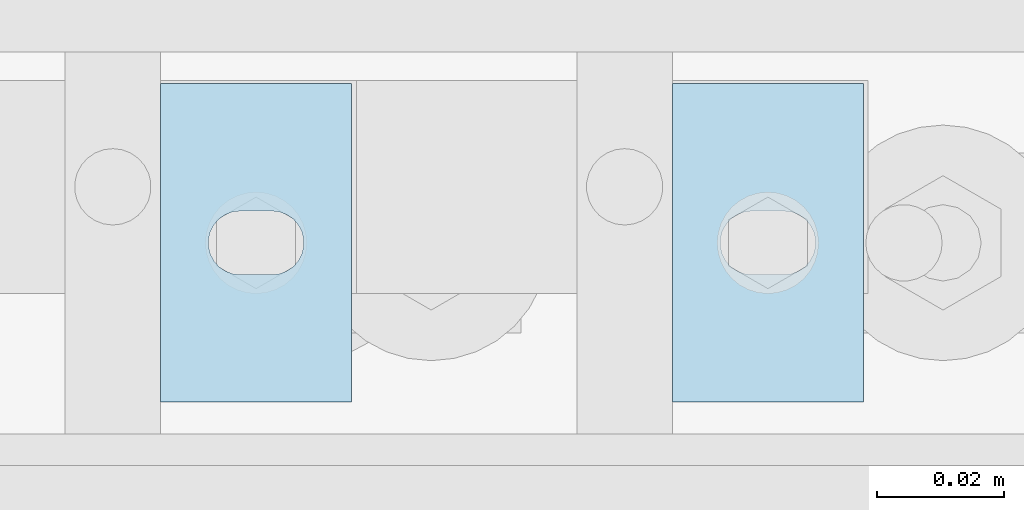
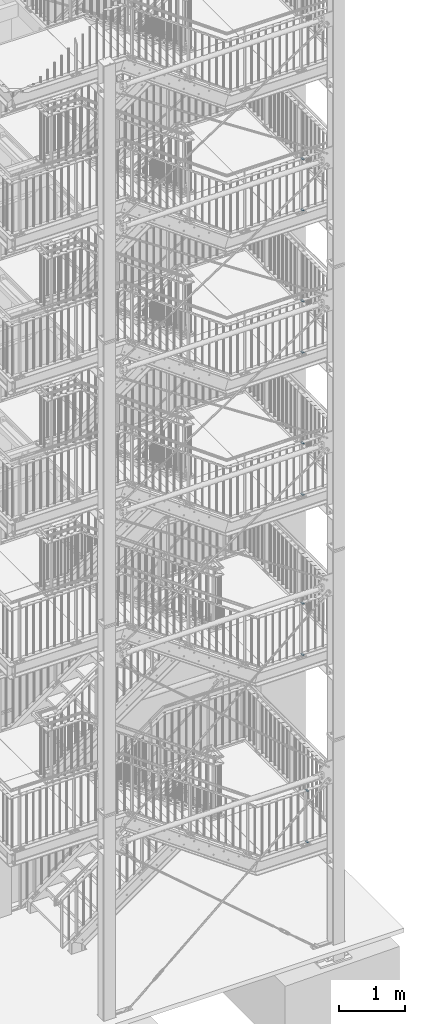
# One storey, part 232 of 831: 10 plates, 10 openings.
"""IFC2X3 building model written with IfcOpenShell, lengths in millimetres."""

from ifc_helpers import new_model, entity, si_unit, converted_unit, point, frame, frame_2d, origin, origin_with_axes, place, context, project, spatial, polyline, circle_curve, line_curve, trimmed, segment, composite_curve, outline, extrude, material, layer, layer_set, element, save


model = new_model("IFC2X3")

# Units and contexts
model_context = context("Model", 3, precision=1e-09, world=origin_with_axes())
ifc_project = project(units=[si_unit("LENGTHUNIT", "METRE", prefix="MILLI"), si_unit("AREAUNIT", "SQUARE_METRE"), si_unit("VOLUMEUNIT", "CUBIC_METRE"), converted_unit("PLANEANGLEUNIT", "DEGREE", entity("IfcPlaneAngleMeasure", 0.01745329), si_unit("PLANEANGLEUNIT", "RADIAN"), dimensions=[0, 0, 0, 0, 0, 0, 0])], contexts=[model_context])

# Site, building, storey
site_placement = place(None, origin_with_axes())
site = spatial("IfcSite", under=ifc_project, at=site_placement, Name="Site", CompositionType="ELEMENT")
building_placement = place(site_placement, origin_with_axes())
building = spatial("IfcBuilding", under=site, at=building_placement, Name="Struktur 1", CompositionType="ELEMENT")
storey_placement = place(building_placement, origin_with_axes())
storey = spatial("IfcBuildingStorey", under=building, at=storey_placement, Name="Default Storey", CompositionType="ELEMENT", Elevation=0.0)

# Plate, opening
ifc_material = material(Name="S235JR")
ifc_layer = layer(ifc_material, 6.0)
ifc_layer_set = layer_set([ifc_layer], Name="S235JR")
plate_1_placement = place(None, frame((8452.674109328, 4526.736971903, 2235.0526312), z_axis=(0.0, 0.0, 1.0), x_axis=(1.0, 0.0, 0.0)))
plate_1 = element("IfcPlate", 1, at=plate_1_placement, inside=storey, material=ifc_layer_set, Name="-", ObjectType="-", context=model_context, shape_type="SweptSolid", body=[
    extrude(outline(polyline([(-15.0, -25.0), (15.0, -25.0), (15.0, 25.0), (-15.0, 25.0), (-15.0, -25.0)])), origin_with_axes(), (0.0, 0.0, 1.0), 6.0),
])
opening_1_placement = place(plate_1_placement, frame((-1e-09, 0.0, -0.5), z_axis=(0.0, 0.0, 1.0), x_axis=(1.0, 0.0, 0.0)))
element("IfcOpeningElement", 2, at=opening_1_placement, cuts=plate_1, ObjectType="Opening", context=model_context, shape_type="SweptSolid", body=[
    extrude(outline(composite_curve([segment(trimmed(line_curve((-2.5, -5.001), (1.0, 0.0), 5.0), [point((-2.5, -5.001))], [point((2.5, -5.001))], True, "CARTESIAN"), True, "CONTINUOUS"), segment(trimmed(circle_curve(frame_2d((2.5, 0.0), x_axis=(1.0, 0.0)), 5.001), [point((2.5, -5.001))], [point((2.5, 5.001))], True, "CARTESIAN"), True, "CONTINUOUS"), segment(trimmed(line_curve((2.5, 5.001), (-1.0, 0.0), 5.0), [point((2.5, 5.001))], [point((-2.5, 5.001))], True, "CARTESIAN"), True, "CONTINUOUS"), segment(trimmed(circle_curve(frame_2d((-2.5, 0.0), x_axis=(1.0, 0.0)), 5.001), [point((-2.5, 5.001))], [point((-2.5, -5.001))], True, "CARTESIAN"), True, "CONTINUOUS")], self_intersect=False)), origin(), (0.0, 0.0, 1.0), 7.0),
])

plate_2_placement = place(None, frame((8452.674109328, 4526.736971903, 3183.8526312), z_axis=(0.0, 0.0, 1.0), x_axis=(1.0, 0.0, 0.0)))
plate_2 = element("IfcPlate", 3, at=plate_2_placement, inside=storey, material=ifc_layer_set, Name="-", ObjectType="-", context=model_context, shape_type="SweptSolid", body=[
    extrude(outline(polyline([(-15.0, -25.0), (15.0, -25.0), (15.0, 25.0), (-15.0, 25.0), (-15.0, -25.0)])), origin_with_axes(), (0.0, 0.0, 1.0), 6.0),
])
opening_2_placement = place(plate_2_placement, frame((-1e-09, 0.0, -0.5), z_axis=(0.0, 0.0, 1.0), x_axis=(1.0, 0.0, 0.0)))
element("IfcOpeningElement", 4, at=opening_2_placement, cuts=plate_2, ObjectType="Opening", context=model_context, shape_type="SweptSolid", body=[
    extrude(outline(composite_curve([segment(trimmed(line_curve((-2.5, -5.001), (1.0, 0.0), 5.0), [point((-2.5, -5.001))], [point((2.5, -5.001))], True, "CARTESIAN"), True, "CONTINUOUS"), segment(trimmed(circle_curve(frame_2d((2.5, 0.0), x_axis=(1.0, 0.0)), 5.001), [point((2.5, -5.001))], [point((2.5, 5.001))], True, "CARTESIAN"), True, "CONTINUOUS"), segment(trimmed(line_curve((2.5, 5.001), (-1.0, 0.0), 5.0), [point((2.5, 5.001))], [point((-2.5, 5.001))], True, "CARTESIAN"), True, "CONTINUOUS"), segment(trimmed(circle_curve(frame_2d((-2.5, 0.0), x_axis=(1.0, 0.0)), 5.001), [point((-2.5, 5.001))], [point((-2.5, -5.001))], True, "CARTESIAN"), True, "CONTINUOUS")], self_intersect=False)), origin(), (0.0, 0.0, 1.0), 7.0),
])

plate_3_placement = place(None, frame((8372.292260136, 4526.736971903, 5728.8947367), z_axis=(0.0, 0.0, 1.0), x_axis=(1.0, 0.0, 0.0)))
plate_3 = element("IfcPlate", 5, at=plate_3_placement, inside=storey, material=ifc_layer_set, Name="-", ObjectType="-", context=model_context, shape_type="SweptSolid", body=[
    extrude(outline(polyline([(-15.0, -25.0), (15.0, -25.0), (15.0, 25.0), (-15.0, 25.0), (-15.0, -25.0)])), origin_with_axes(), (0.0, 0.0, 1.0), 6.0),
])
opening_3_placement = place(plate_3_placement, frame((-1e-09, 0.0, -0.5), z_axis=(0.0, 0.0, 1.0), x_axis=(1.0, 0.0, 0.0)))
element("IfcOpeningElement", 6, at=opening_3_placement, cuts=plate_3, ObjectType="Opening", context=model_context, shape_type="SweptSolid", body=[
    extrude(outline(composite_curve([segment(trimmed(line_curve((-2.5, -5.001), (1.0, 0.0), 5.0), [point((-2.5, -5.001))], [point((2.5, -5.001))], True, "CARTESIAN"), True, "CONTINUOUS"), segment(trimmed(circle_curve(frame_2d((2.5, 0.0), x_axis=(1.0, 0.0)), 5.001), [point((2.5, -5.001))], [point((2.5, 5.001))], True, "CARTESIAN"), True, "CONTINUOUS"), segment(trimmed(line_curve((2.5, 5.001), (-1.0, 0.0), 5.0), [point((2.5, 5.001))], [point((-2.5, 5.001))], True, "CARTESIAN"), True, "CONTINUOUS"), segment(trimmed(circle_curve(frame_2d((-2.5, 0.0), x_axis=(1.0, 0.0)), 5.001), [point((-2.5, 5.001))], [point((-2.5, -5.001))], True, "CARTESIAN"), True, "CONTINUOUS")], self_intersect=False)), origin(), (0.0, 0.0, 1.0), 7.0),
])

plate_4_placement = place(None, frame((8372.292260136, 4526.736971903, 6677.6947367), z_axis=(0.0, 0.0, 1.0), x_axis=(1.0, 0.0, 0.0)))
plate_4 = element("IfcPlate", 7, at=plate_4_placement, inside=storey, material=ifc_layer_set, Name="-", ObjectType="-", context=model_context, shape_type="SweptSolid", body=[
    extrude(outline(polyline([(-15.0, -25.0), (15.0, -25.0), (15.0, 25.0), (-15.0, 25.0), (-15.0, -25.0)])), origin_with_axes(), (0.0, 0.0, 1.0), 6.0),
])
opening_4_placement = place(plate_4_placement, frame((-1e-09, 0.0, -0.5), z_axis=(0.0, 0.0, 1.0), x_axis=(1.0, 0.0, 0.0)))
element("IfcOpeningElement", 8, at=opening_4_placement, cuts=plate_4, ObjectType="Opening", context=model_context, shape_type="SweptSolid", body=[
    extrude(outline(composite_curve([segment(trimmed(line_curve((-2.5, -5.001), (1.0, 0.0), 5.0), [point((-2.5, -5.001))], [point((2.5, -5.001))], True, "CARTESIAN"), True, "CONTINUOUS"), segment(trimmed(circle_curve(frame_2d((2.5, 0.0), x_axis=(1.0, 0.0)), 5.001), [point((2.5, -5.001))], [point((2.5, 5.001))], True, "CARTESIAN"), True, "CONTINUOUS"), segment(trimmed(line_curve((2.5, 5.001), (-1.0, 0.0), 5.0), [point((2.5, 5.001))], [point((-2.5, 5.001))], True, "CARTESIAN"), True, "CONTINUOUS"), segment(trimmed(circle_curve(frame_2d((-2.5, 0.0), x_axis=(1.0, 0.0)), 5.001), [point((-2.5, 5.001))], [point((-2.5, -5.001))], True, "CARTESIAN"), True, "CONTINUOUS")], self_intersect=False)), origin(), (0.0, 0.0, 1.0), 7.0),
])

plate_5_placement = place(None, frame((8372.292260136, 4526.736971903, 8690.0), z_axis=(0.0, 0.0, 1.0), x_axis=(1.0, 0.0, 0.0)))
plate_5 = element("IfcPlate", 9, at=plate_5_placement, inside=storey, material=ifc_layer_set, Name="-", ObjectType="-", context=model_context, shape_type="SweptSolid", body=[
    extrude(outline(polyline([(-15.0, -25.0), (15.0, -25.0), (15.0, 25.0), (-15.0, 25.0), (-15.0, -25.0)])), origin_with_axes(), (0.0, 0.0, 1.0), 6.0),
])
opening_5_placement = place(plate_5_placement, frame((-1e-09, 0.0, -0.5), z_axis=(0.0, 0.0, 1.0), x_axis=(1.0, 0.0, 0.0)))
element("IfcOpeningElement", 10, at=opening_5_placement, cuts=plate_5, ObjectType="Opening", context=model_context, shape_type="SweptSolid", body=[
    extrude(outline(composite_curve([segment(trimmed(line_curve((-2.5, -5.001), (1.0, 0.0), 5.0), [point((-2.5, -5.001))], [point((2.5, -5.001))], True, "CARTESIAN"), True, "CONTINUOUS"), segment(trimmed(circle_curve(frame_2d((2.5, 0.0), x_axis=(1.0, 0.0)), 5.001), [point((2.5, -5.001))], [point((2.5, 5.001))], True, "CARTESIAN"), True, "CONTINUOUS"), segment(trimmed(line_curve((2.5, 5.001), (-1.0, 0.0), 5.0), [point((2.5, 5.001))], [point((-2.5, 5.001))], True, "CARTESIAN"), True, "CONTINUOUS"), segment(trimmed(circle_curve(frame_2d((-2.5, 0.0), x_axis=(1.0, 0.0)), 5.001), [point((-2.5, 5.001))], [point((-2.5, -5.001))], True, "CARTESIAN"), True, "CONTINUOUS")], self_intersect=False)), origin(), (0.0, 0.0, 1.0), 7.0),
])

plate_6_placement = place(None, frame((8372.292260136, 4526.736971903, 9638.8), z_axis=(0.0, 0.0, 1.0), x_axis=(1.0, 0.0, 0.0)))
plate_6 = element("IfcPlate", 11, at=plate_6_placement, inside=storey, material=ifc_layer_set, Name="-", ObjectType="-", context=model_context, shape_type="SweptSolid", body=[
    extrude(outline(polyline([(-15.0, -25.0), (15.0, -25.0), (15.0, 25.0), (-15.0, 25.0), (-15.0, -25.0)])), origin_with_axes(), (0.0, 0.0, 1.0), 6.0),
])
opening_6_placement = place(plate_6_placement, frame((-1e-09, 0.0, -0.5), z_axis=(0.0, 0.0, 1.0), x_axis=(1.0, 0.0, 0.0)))
element("IfcOpeningElement", 12, at=opening_6_placement, cuts=plate_6, ObjectType="Opening", context=model_context, shape_type="SweptSolid", body=[
    extrude(outline(composite_curve([segment(trimmed(line_curve((-2.5, -5.001), (1.0, 0.0), 5.0), [point((-2.5, -5.001))], [point((2.5, -5.001))], True, "CARTESIAN"), True, "CONTINUOUS"), segment(trimmed(circle_curve(frame_2d((2.5, 0.0), x_axis=(1.0, 0.0)), 5.001), [point((2.5, -5.001))], [point((2.5, 5.001))], True, "CARTESIAN"), True, "CONTINUOUS"), segment(trimmed(line_curve((2.5, 5.001), (-1.0, 0.0), 5.0), [point((2.5, 5.001))], [point((-2.5, 5.001))], True, "CARTESIAN"), True, "CONTINUOUS"), segment(trimmed(circle_curve(frame_2d((-2.5, 0.0), x_axis=(1.0, 0.0)), 5.001), [point((-2.5, 5.001))], [point((-2.5, -5.001))], True, "CARTESIAN"), True, "CONTINUOUS")], self_intersect=False)), origin(), (0.0, 0.0, 1.0), 7.0),
])

plate_7_placement = place(None, frame((8372.292260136, 4526.736971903, 11319.5000003), z_axis=(0.0, 0.0, 1.0), x_axis=(1.0, 0.0, 0.0)))
plate_7 = element("IfcPlate", 13, at=plate_7_placement, inside=storey, material=ifc_layer_set, Name="-", ObjectType="-", context=model_context, shape_type="SweptSolid", body=[
    extrude(outline(polyline([(-15.0, -25.0), (15.0, -25.0), (15.0, 25.0), (-15.0, 25.0), (-15.0, -25.0)])), origin_with_axes(), (0.0, 0.0, 1.0), 6.0),
])
opening_7_placement = place(plate_7_placement, frame((-1e-09, 0.0, -0.5), z_axis=(0.0, 0.0, 1.0), x_axis=(1.0, 0.0, 0.0)))
element("IfcOpeningElement", 14, at=opening_7_placement, cuts=plate_7, ObjectType="Opening", context=model_context, shape_type="SweptSolid", body=[
    extrude(outline(composite_curve([segment(trimmed(line_curve((-2.5, -5.001), (1.0, 0.0), 5.0), [point((-2.5, -5.001))], [point((2.5, -5.001))], True, "CARTESIAN"), True, "CONTINUOUS"), segment(trimmed(circle_curve(frame_2d((2.5, 0.0), x_axis=(1.0, 0.0)), 5.001), [point((2.5, -5.001))], [point((2.5, 5.001))], True, "CARTESIAN"), True, "CONTINUOUS"), segment(trimmed(line_curve((2.5, 5.001), (-1.0, 0.0), 5.0), [point((2.5, 5.001))], [point((-2.5, 5.001))], True, "CARTESIAN"), True, "CONTINUOUS"), segment(trimmed(circle_curve(frame_2d((-2.5, 0.0), x_axis=(1.0, 0.0)), 5.001), [point((-2.5, 5.001))], [point((-2.5, -5.001))], True, "CARTESIAN"), True, "CONTINUOUS")], self_intersect=False)), origin(), (0.0, 0.0, 1.0), 7.0),
])

plate_8_placement = place(None, frame((8372.292260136, 4526.736971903, 12268.3000003), z_axis=(0.0, 0.0, 1.0), x_axis=(1.0, 0.0, 0.0)))
plate_8 = element("IfcPlate", 15, at=plate_8_placement, inside=storey, material=ifc_layer_set, Name="-", ObjectType="-", context=model_context, shape_type="SweptSolid", body=[
    extrude(outline(polyline([(-15.0, -25.0), (15.0, -25.0), (15.0, 25.0), (-15.0, 25.0), (-15.0, -25.0)])), origin_with_axes(), (0.0, 0.0, 1.0), 6.0),
])
opening_8_placement = place(plate_8_placement, frame((-1e-09, 0.0, -0.5), z_axis=(0.0, 0.0, 1.0), x_axis=(1.0, 0.0, 0.0)))
element("IfcOpeningElement", 16, at=opening_8_placement, cuts=plate_8, ObjectType="Opening", context=model_context, shape_type="SweptSolid", body=[
    extrude(outline(composite_curve([segment(trimmed(line_curve((-2.5, -5.001), (1.0, 0.0), 5.0), [point((-2.5, -5.001))], [point((2.5, -5.001))], True, "CARTESIAN"), True, "CONTINUOUS"), segment(trimmed(circle_curve(frame_2d((2.5, 0.0), x_axis=(1.0, 0.0)), 5.001), [point((2.5, -5.001))], [point((2.5, 5.001))], True, "CARTESIAN"), True, "CONTINUOUS"), segment(trimmed(line_curve((2.5, 5.001), (-1.0, 0.0), 5.0), [point((2.5, 5.001))], [point((-2.5, 5.001))], True, "CARTESIAN"), True, "CONTINUOUS"), segment(trimmed(circle_curve(frame_2d((-2.5, 0.0), x_axis=(1.0, 0.0)), 5.001), [point((-2.5, 5.001))], [point((-2.5, -5.001))], True, "CARTESIAN"), True, "CONTINUOUS")], self_intersect=False)), origin(), (0.0, 0.0, 1.0), 7.0),
])

plate_9_placement = place(None, frame((8372.292260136, 4526.736971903, 13950.5000001), z_axis=(0.0, 0.0, 1.0), x_axis=(1.0, 0.0, 0.0)))
plate_9 = element("IfcPlate", 17, at=plate_9_placement, inside=storey, material=ifc_layer_set, Name="-", ObjectType="-", context=model_context, shape_type="SweptSolid", body=[
    extrude(outline(polyline([(-15.0, -25.0), (15.0, -25.0), (15.0, 25.0), (-15.0, 25.0), (-15.0, -25.0)])), origin_with_axes(), (0.0, 0.0, 1.0), 6.0),
])
opening_9_placement = place(plate_9_placement, frame((-1e-09, 0.0, -0.5), z_axis=(0.0, 0.0, 1.0), x_axis=(1.0, 0.0, 0.0)))
element("IfcOpeningElement", 18, at=opening_9_placement, cuts=plate_9, ObjectType="Opening", context=model_context, shape_type="SweptSolid", body=[
    extrude(outline(composite_curve([segment(trimmed(line_curve((-2.5, -5.001), (1.0, 0.0), 5.0), [point((-2.5, -5.001))], [point((2.5, -5.001))], True, "CARTESIAN"), True, "CONTINUOUS"), segment(trimmed(circle_curve(frame_2d((2.5, 0.0), x_axis=(1.0, 0.0)), 5.001), [point((2.5, -5.001))], [point((2.5, 5.001))], True, "CARTESIAN"), True, "CONTINUOUS"), segment(trimmed(line_curve((2.5, 5.001), (-1.0, 0.0), 5.0), [point((2.5, 5.001))], [point((-2.5, 5.001))], True, "CARTESIAN"), True, "CONTINUOUS"), segment(trimmed(circle_curve(frame_2d((-2.5, 0.0), x_axis=(1.0, 0.0)), 5.001), [point((-2.5, 5.001))], [point((-2.5, -5.001))], True, "CARTESIAN"), True, "CONTINUOUS")], self_intersect=False)), origin(), (0.0, 0.0, 1.0), 7.0),
])

plate_10_placement = place(None, frame((8372.292260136, 4526.736971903, 14899.3000001), z_axis=(0.0, 0.0, 1.0), x_axis=(1.0, 0.0, 0.0)))
plate_10 = element("IfcPlate", 19, at=plate_10_placement, inside=storey, material=ifc_layer_set, Name="-", ObjectType="-", context=model_context, shape_type="SweptSolid", body=[
    extrude(outline(polyline([(-15.0, -25.0), (15.0, -25.0), (15.0, 25.0), (-15.0, 25.0), (-15.0, -25.0)])), origin_with_axes(), (0.0, 0.0, 1.0), 6.0),
])
opening_10_placement = place(plate_10_placement, frame((-1e-09, 0.0, -0.5), z_axis=(0.0, 0.0, 1.0), x_axis=(1.0, 0.0, 0.0)))
element("IfcOpeningElement", 20, at=opening_10_placement, cuts=plate_10, ObjectType="Opening", context=model_context, shape_type="SweptSolid", body=[
    extrude(outline(composite_curve([segment(trimmed(line_curve((-2.5, -5.001), (1.0, 0.0), 5.0), [point((-2.5, -5.001))], [point((2.5, -5.001))], True, "CARTESIAN"), True, "CONTINUOUS"), segment(trimmed(circle_curve(frame_2d((2.5, 0.0), x_axis=(1.0, 0.0)), 5.001), [point((2.5, -5.001))], [point((2.5, 5.001))], True, "CARTESIAN"), True, "CONTINUOUS"), segment(trimmed(line_curve((2.5, 5.001), (-1.0, 0.0), 5.0), [point((2.5, 5.001))], [point((-2.5, 5.001))], True, "CARTESIAN"), True, "CONTINUOUS"), segment(trimmed(circle_curve(frame_2d((-2.5, 0.0), x_axis=(1.0, 0.0)), 5.001), [point((-2.5, 5.001))], [point((-2.5, -5.001))], True, "CARTESIAN"), True, "CONTINUOUS")], self_intersect=False)), origin(), (0.0, 0.0, 1.0), 7.0),
])

save(model, "model.ifc")
